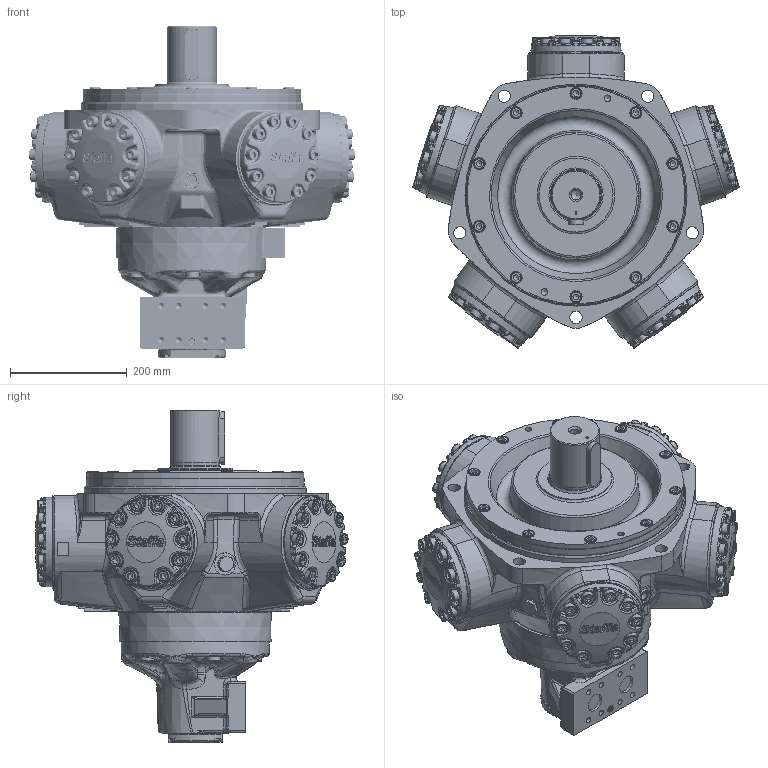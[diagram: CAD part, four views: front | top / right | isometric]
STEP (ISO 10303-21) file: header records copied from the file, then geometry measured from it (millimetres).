
FILE_DESCRIPTION(/* description */ (''),/* implementation_level */ '2;1');
FILE_NAME(/* name */ 'HMC 125_P1_SFM3_X_70.stp',/* time_stamp */ '2025-04-23T15:54:05+01:00',/* author */ ('ccallanga'),/* organization */ (''),/* preprocessor_version */ 'ST-DEVELOPER v20',/* originating_system */ 'Autodesk Inventor 2024',/* authorisation */ '');
FILE_SCHEMA (('AUTOMOTIVE_DESIGN { 1 0 10303 214 3 1 1 }'));
Products named in the file (1): 017750 HMC125 WEBSITE ASSEMBLY_Simplify_1
Bounding box: 560.12 x 535.2 x 569.37 mm (x, y, z)
Volume: 41311731.1 mm3; surface area: 1109359.9 mm2
Topology: 1 solids, 1 shells, 4764 faces, 11552 edges, 6810 vertices
Faces by surface type: bspline 1872, plane 1260, cylinder 956, torus 401, cone 150, sphere 125
Full cylindrical faces by diameter (mm): 2.2 x4, 6.5 x1, 7 x1, 9.4 x1, 10.25 x8, 11.328 x4, 11.445 x2, 11.913 x4, 12 x1, 12.7 x4, 16.51 x1, 17.323 x1, 19.05 x60, 20.637 x60, 21 x5, 23.825 x5, 25.4 x5, 26.92 x2, 32 x2, 38.1 x3, 68.58 x1, 85.001 x1, 88.837 x1, 92.964 x1, 127 x1, 158.75 x5, 254 x2, 373.255 x1, 373.596 x1, 380.911 x1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
Entity records: 218339 total; most frequent: CARTESIAN_POINT 116638, ORIENTED_EDGE 22614, DIRECTION 15999, EDGE_CURVE 11307, VERTEX_POINT 6810, AXIS2_PLACEMENT_3D 6264, EDGE_LOOP 5043, STYLED_ITEM 4765
